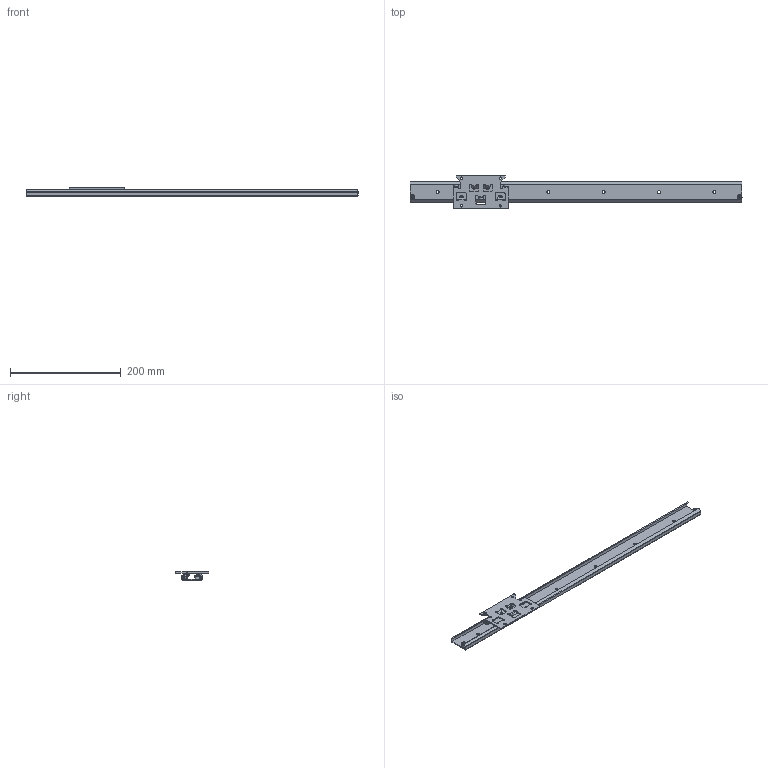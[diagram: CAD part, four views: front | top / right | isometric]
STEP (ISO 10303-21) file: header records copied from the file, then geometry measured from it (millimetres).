
FILE_DESCRIPTION((''),'1');
FILE_NAME('H:/図庫/国内ﾕﾆｯﾄ/ｽﾗｲﾄﾞ/ホームページ用ＣＡＤ図面/3D/37SW/stp', '2018-10-22T23:33:35',(''), (''), 'KCM Version 1.1.1442.0', 'Kubotek KeyCreator', '');
FILE_SCHEMA(('AUTOMOTIVE_DESIGN'));
Length unit declared in the file: millimetre
Bounding box: 600 x 60 x 14.8 mm (x, y, z)
Surface area: 89148 mm2 (no closed solid volume)
Topology: 0 solids, 615 shells, 615 faces, 2439 edges, 2138 vertices
Faces by surface type: plane 254, cone 170, cylinder 136, torus 48, bspline 6, sphere 1
Full cylindrical faces by diameter (mm): 2.3 x6, 2.44 x7, 3 x21, 3.5 x1, 4 x7, 4.03 x6, 4.5 x6, 5 x6, 5.5 x2, 5.6 x3, 6 x5, 8 x6, 8.2 x2
Entity records: 26887 total; most frequent: CARTESIAN_POINT 5522, DIRECTION 4793, ORIENTED_EDGE 2740, EDGE_CURVE 2438, VERTEX_POINT 2131, AXIS2_PLACEMENT_3D 1858, CIRCLE 1214, VECTOR 1077
